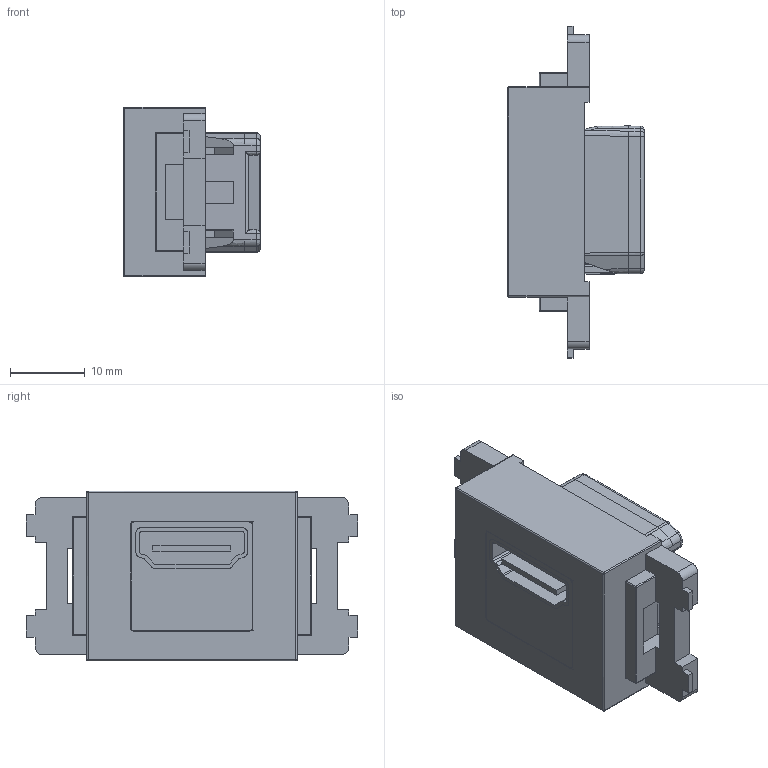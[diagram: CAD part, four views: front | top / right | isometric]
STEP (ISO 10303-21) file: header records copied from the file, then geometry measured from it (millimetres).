
FILE_DESCRIPTION(('FreeCAD Model'),'2;1');
FILE_NAME('Open CASCADE Shape Model','2026-05-12T09:53:50',(''),(''), 'Open CASCADE STEP processor 7.8','FreeCAD','Unknown');
FILE_SCHEMA(('AUTOMOTIVE_DESIGN { 1 0 10303 214 1 1 1 1 }'));
Length unit declared in the file: millimetre
Products named in the file (3): CC_SHDMI_XX_KV; SY-NWT-KV-xx; 210HD06G2xx
Assembly tree (2 placements, depth 2):
  CC_SHDMI_XX_KV
    SY-NWT-KV-xx
    210HD06G2xx
Bounding box: 18.2 x 44.3 x 22.65 mm (x, y, z)
Volume: 7841.9 mm3; surface area: 7152.8 mm2
Topology: 2 solids, 2 shells, 307 faces, 845 edges, 546 vertices
Faces by surface type: bspline 307
Entity records: 14458 total; most frequent: CARTESIAN_POINT 9316, ORIENTED_EDGE 1690, EDGE_CURVE 845, B_SPLINE_CURVE_WITH_KNOTS 843, VERTEX_POINT 546, FACE_BOUND 317, EDGE_LOOP 317, ADVANCED_FACE 307
